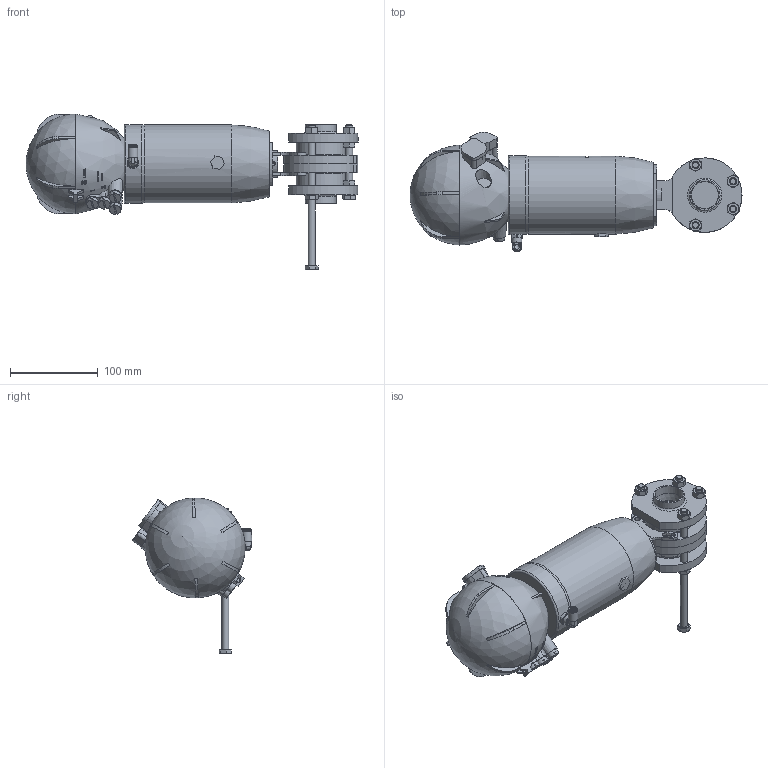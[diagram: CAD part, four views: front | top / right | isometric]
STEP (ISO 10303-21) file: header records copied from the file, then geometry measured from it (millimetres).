
FILE_DESCRIPTION(/* description */ ('ZVF V.FARF.DN32(35X1.5) WAF4 MACH83 SENC 316 EPDM'),/* implementation_level */ '2;1');
FILE_NAME(/* name */ 'C:\_DED_PWS\ZIGN-L\DB\B\EAA\BEAAC6032BEBA-00^SAGOMA.step',/* time_stamp */ '2022-04-07T15:42:34+02:00',/* author */ (''),/* organization */ (''),/* preprocessor_version */ 'ST-DEVELOPER v18.1',/* originating_system */ 'Autodesk Inventor 2022',/* authorisation */ '');
FILE_SCHEMA (('CONFIG_CONTROL_DESIGN'));
Length unit declared in the file: millimetre
Products named in the file (8): BEAAC6032BEBA; MEZZO-COR-DN032-WAFER-4; FLANGIA-DN32-WAFER-4; 3DAAZVFAA052; Supporto-farf-DN25-65-; 3DAAJGIOAA007; UNI 5739 - M8 x 80; UNI 5588 - M8
Assembly tree (20 placements, depth 2):
  BEAAC6032BEBA
    FLANGIA-DN32-WAFER-4  x2
    MEZZO-COR-DN032-WAFER-4  x2
    UNI 5739 - M8 x 80  x5
    UNI 5588 - M8  x8
    3DAAZVFAA052
    Supporto-farf-DN25-65-
    3DAAJGIOAA007
Bounding box: 378.96 x 136.76 x 178 mm (x, y, z)
Volume: 2168512.8 mm3; surface area: 224077.5 mm2
Topology: 20 solids, 20 shells, 1291 faces, 3337 edges, 2156 vertices
Faces by surface type: plane 848, cone 206, cylinder 163, bspline 56, torus 17, sphere 1
Full cylindrical faces by diameter (mm): 2 x1, 3 x5, 4 x1, 4.917 x11, 6 x2, 6.2 x4, 6.647 x8, 7 x5, 7.8 x1, 8 x5, 8.3 x1, 8.5 x12, 8.566 x1, 10 x2, 10.376 x1, 11 x1, 11.5 x1, 11.63 x5, 13 x4, 18 x1, 18.5 x2, 24.5 x1, 25 x1, 30 x1, 30.3 x1, 31 x2, 32 x2, 34.6 x2, 35 x2, 42 x2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
Entity records: 35903 total; most frequent: CARTESIAN_POINT 8568, DIRECTION 5757, ORIENTED_EDGE 5466, EDGE_CURVE 2733, AXIS2_PLACEMENT_3D 2344, VERTEX_POINT 1804, EDGE_LOOP 1141, LINE 1069
